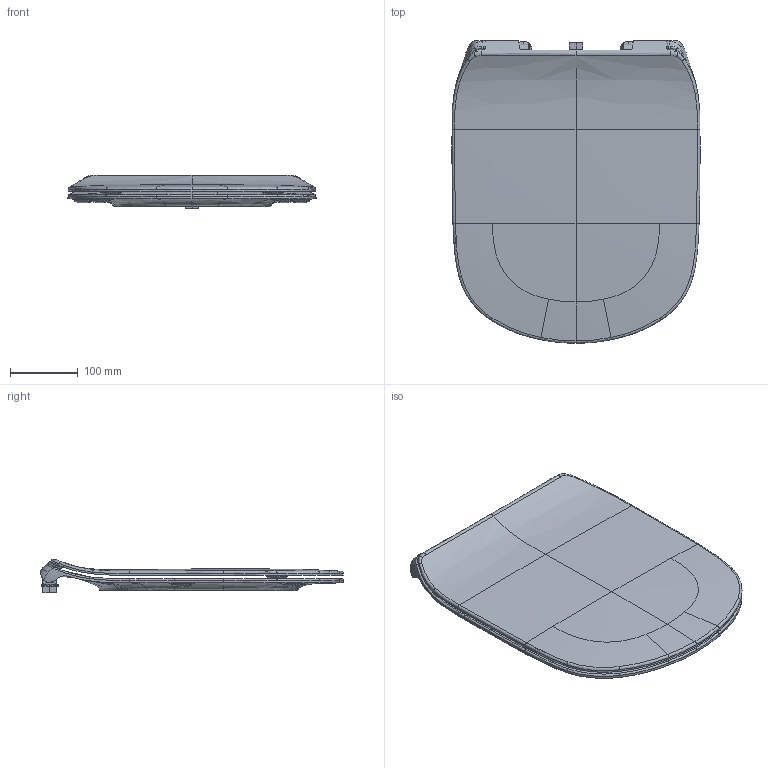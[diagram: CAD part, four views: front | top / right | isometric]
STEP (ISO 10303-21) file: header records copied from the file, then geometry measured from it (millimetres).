
FILE_DESCRIPTION((''),'2;1');
FILE_NAME('T3527_3DPL_1','2016-01-05T',('KosevI'),('AMERICAN STANDARD B&K'),'PRO/ENGINEER BY PARAMETRIC TECHNOLOGY CORPORATION, 2011330','PRO/ENGINEER BY PARAMETRIC TECHNOLOGY CORPORATION, 2011330','');
FILE_SCHEMA(('CONFIG_CONTROL_DESIGN'));
Length unit declared in the file: millimetre
Products named in the file (1): T3527_3DPL_1
Bounding box: 365.86 x 446.25 x 50.06 mm (x, y, z)
Volume: 1513218.8 mm3; surface area: 512384.3 mm2
Topology: 1 solids, 4 shells, 520 faces, 1380 edges, 872 vertices
Faces by surface type: bspline 188, cylinder 88, plane 74, torus 70, revolution 32, extrusion 30, cone 24, sphere 14
Entity records: 34151 total; most frequent: CARTESIAN_POINT 22933, ORIENTED_EDGE 2724, DIRECTION 1683, EDGE_CURVE 1368, VERTEX_POINT 872, B_SPLINE_CURVE_WITH_KNOTS 730, AXIS2_PLACEMENT_3D 674, EDGE_LOOP 555
